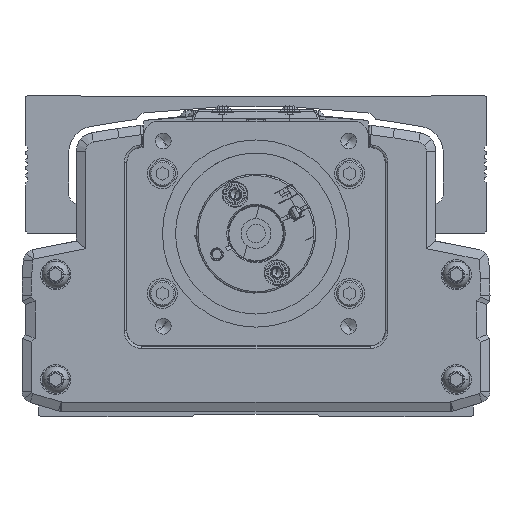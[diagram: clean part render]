
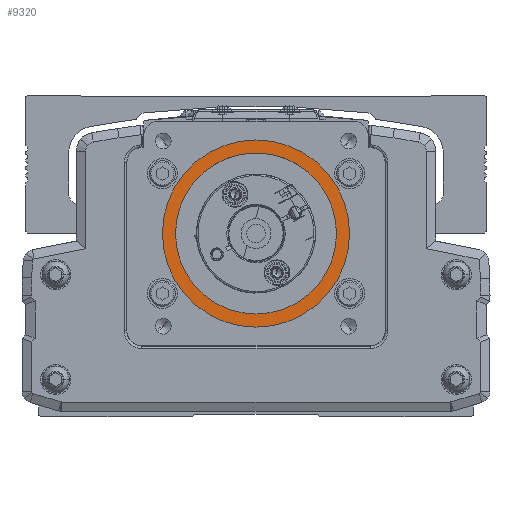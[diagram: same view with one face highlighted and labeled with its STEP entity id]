
A CAD part, front view. The second image highlights one B-rep face of the part: STEP entity #9320.
In plain terms, the highlighted planar face has unit normal (0, -1, 0).
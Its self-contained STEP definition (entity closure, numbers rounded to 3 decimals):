
#9320=ADVANCED_FACE('',(#19092,#19093),#19094,.T.);
#19092=FACE_BOUND('',#31364,.T.);
#19093=FACE_OUTER_BOUND('',#31365,.T.);
#19094=PLANE('',#31366);
#31364=EDGE_LOOP('',(#58710,#58711));
#31365=EDGE_LOOP('',(#58712,#58713));
#31366=AXIS2_PLACEMENT_3D('',#58714,#58715,#58716);
#58710=ORIENTED_EDGE('',*,*,#70235,.F.);
#58711=ORIENTED_EDGE('',*,*,#69352,.F.);
#58712=ORIENTED_EDGE('',*,*,#70532,.F.);
#58713=ORIENTED_EDGE('',*,*,#67178,.F.);
#58714=CARTESIAN_POINT('',(-300.,-335.778,0.));
#58715=DIRECTION('',(0.,-1.0,0.));
#58716=DIRECTION('',(1.0,0.,0.));
#67178=EDGE_CURVE('',#82338,#82333,#82340,.T.);
#69352=EDGE_CURVE('',#85332,#85330,#85334,.T.);
#70235=EDGE_CURVE('',#85330,#85332,#86410,.T.);
#70532=EDGE_CURVE('',#82333,#82338,#86750,.T.);
#82333=VERTEX_POINT('',#103120);
#82338=VERTEX_POINT('',#103126);
#82340=CIRCLE('',#103129,25.0);
#85330=VERTEX_POINT('',#107522);
#85332=VERTEX_POINT('',#107525);
#85334=CIRCLE('',#107528,21.5);
#86410=CIRCLE('',#109072,21.5);
#86750=CIRCLE('',#109663,25.0);
#103120=CARTESIAN_POINT('',(-275.,-335.778,0.));
#103126=CARTESIAN_POINT('',(-325.,-335.778,0.));
#103129=AXIS2_PLACEMENT_3D('',#120689,#120690,#120691);
#107522=CARTESIAN_POINT('',(-278.5,-335.778,0.));
#107525=CARTESIAN_POINT('',(-321.5,-335.778,0.));
#107528=AXIS2_PLACEMENT_3D('',#123373,#123374,#123375);
#109072=AXIS2_PLACEMENT_3D('',#124431,#124432,#124433);
#109663=AXIS2_PLACEMENT_3D('',#124691,#124692,#124693);
#120689=CARTESIAN_POINT('',(-300.,-335.778,0.));
#120690=DIRECTION('',(0.,1.0,0.));
#120691=DIRECTION('',(1.0,0.,0.));
#123373=CARTESIAN_POINT('',(-300.,-335.778,0.));
#123374=DIRECTION('',(0.,-1.0,0.));
#123375=DIRECTION('',(1.0,0.,0.));
#124431=CARTESIAN_POINT('',(-300.,-335.778,0.));
#124432=DIRECTION('',(0.,-1.0,0.));
#124433=DIRECTION('',(1.0,0.,0.));
#124691=CARTESIAN_POINT('',(-300.,-335.778,0.));
#124692=DIRECTION('',(0.,1.0,0.));
#124693=DIRECTION('',(1.0,0.,0.));
